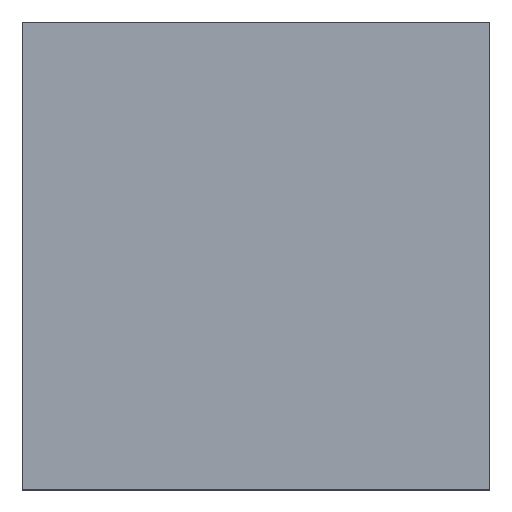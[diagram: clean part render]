
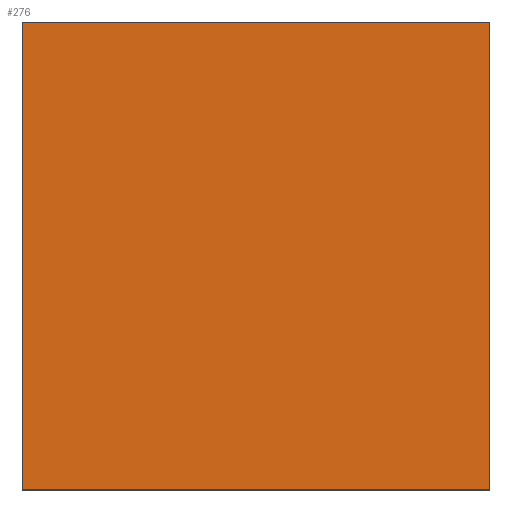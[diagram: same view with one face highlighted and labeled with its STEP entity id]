
A CAD part, top view. The second image highlights one B-rep face of the part: STEP entity #276.
In plain terms, the highlighted planar face has unit normal (0, 0, 1).
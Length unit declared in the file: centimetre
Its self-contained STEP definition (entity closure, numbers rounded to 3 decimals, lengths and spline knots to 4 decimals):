
#7 = FACE_OUTER_BOUND ( 'NONE', #372, .T. ) ;
#12 = CARTESIAN_POINT ( 'NONE',  ( 0., 0., 1000. ) ) ;
#15 = VERTEX_POINT ( 'NONE', #375 ) ;
#56 = DIRECTION ( 'NONE',  ( 0., 1., 0. ) ) ;
#90 = VERTEX_POINT ( 'NONE', #854 ) ;
#138 = LINE ( 'NONE', #328, #261 ) ;
#198 = LINE ( 'NONE', #410, #835 ) ;
#219 = CARTESIAN_POINT ( 'NONE',  ( 1000., 1000., 1000. ) ) ;
#261 = VECTOR ( 'NONE', #601, 100. ) ;
#276 = ADVANCED_FACE ( 'NONE', ( #7 ), #699, .T. ) ;
#328 = CARTESIAN_POINT ( 'NONE',  ( 0., 1000., 1000. ) ) ;
#353 = DIRECTION ( 'NONE',  ( 1., 0., 0. ) ) ;
#358 = DIRECTION ( 'NONE',  ( 0., 0., 1. ) ) ;
#372 = EDGE_LOOP ( 'NONE', ( #599, #739, #829, #591 ) ) ;
#375 = CARTESIAN_POINT ( 'NONE',  ( 0., 0., 1000. ) ) ;
#393 = CARTESIAN_POINT ( 'NONE',  ( 0., 0., 1000. ) ) ;
#410 = CARTESIAN_POINT ( 'NONE',  ( 1000., 1000., 1000. ) ) ;
#434 = AXIS2_PLACEMENT_3D ( 'NONE', #12, #358, #353 ) ;
#547 = VECTOR ( 'NONE', #736, 100. ) ;
#557 = EDGE_CURVE ( 'NONE', #15, #763, #882, .T. ) ;
#591 = ORIENTED_EDGE ( 'NONE', *, *, #909, .T. ) ;
#599 = ORIENTED_EDGE ( 'NONE', *, *, #755, .T. ) ;
#601 = DIRECTION ( 'NONE',  ( 0., -1., 0. ) ) ;
#620 = LINE ( 'NONE', #855, #730 ) ;
#643 = DIRECTION ( 'NONE',  ( -1., 0., 0. ) ) ;
#699 = PLANE ( 'NONE',  #434 ) ;
#730 = VECTOR ( 'NONE', #643, 100. ) ;
#736 = DIRECTION ( 'NONE',  ( 1., 0., 0. ) ) ;
#739 = ORIENTED_EDGE ( 'NONE', *, *, #557, .T. ) ;
#755 = EDGE_CURVE ( 'NONE', #90, #15, #138, .T. ) ;
#763 = VERTEX_POINT ( 'NONE', #886 ) ;
#812 = VERTEX_POINT ( 'NONE', #219 ) ;
#829 = ORIENTED_EDGE ( 'NONE', *, *, #895, .T. ) ;
#835 = VECTOR ( 'NONE', #56, 100. ) ;
#854 = CARTESIAN_POINT ( 'NONE',  ( 0., 1000., 1000. ) ) ;
#855 = CARTESIAN_POINT ( 'NONE',  ( 0., 1000., 1000. ) ) ;
#882 = LINE ( 'NONE', #393, #547 ) ;
#886 = CARTESIAN_POINT ( 'NONE',  ( 1000., 0., 1000. ) ) ;
#895 = EDGE_CURVE ( 'NONE', #763, #812, #198, .T. ) ;
#909 = EDGE_CURVE ( 'NONE', #812, #90, #620, .T. ) ;
